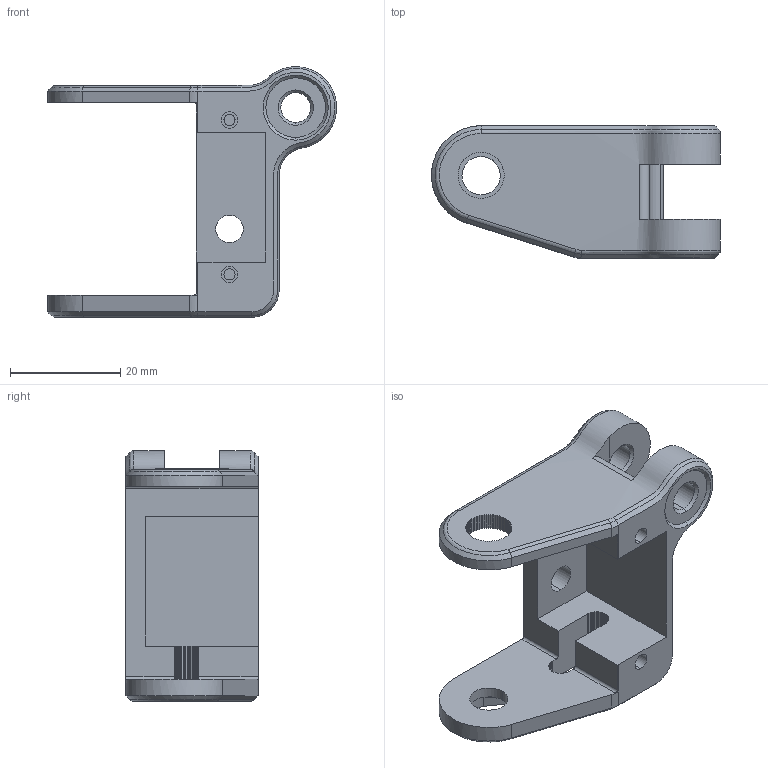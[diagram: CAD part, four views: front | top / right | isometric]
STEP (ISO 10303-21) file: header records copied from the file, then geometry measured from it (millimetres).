
FILE_DESCRIPTION(/* description */ (''),/* implementation_level */ '2;1');
FILE_NAME(/* name */ 'Tetrapod Coxa V6',/* time_stamp */ '2025-05-30T10:03:21-04:00',/* author */ (''),/* organization */ (''),/* preprocessor_version */ 'ST-DEVELOPER v19.2',/* originating_system */ 'Rhino 8.19',/* authorisation */ '');
FILE_SCHEMA (('CONFIG_CONTROL_DESIGN'));
Length unit declared in the file: millimetre
Products named in the file (1): Document
Bounding box: 52.39 x 24 x 45.4 mm (x, y, z)
Volume: 11961.1 mm3; surface area: 7827.5 mm2
Topology: 1 solids, 1 shells, 234 faces, 651 edges, 423 vertices
Faces by surface type: plane 175, cylinder 32, bspline 27
Entity records: 8292 total; most frequent: CARTESIAN_POINT 3570, ORIENTED_EDGE 1302, EDGE_CURVE 651, B_SPLINE_CURVE_WITH_KNOTS 515, VERTEX_POINT 423, DIRECTION 363, AXIS2_PLACEMENT_3D 284, EDGE_LOOP 250
